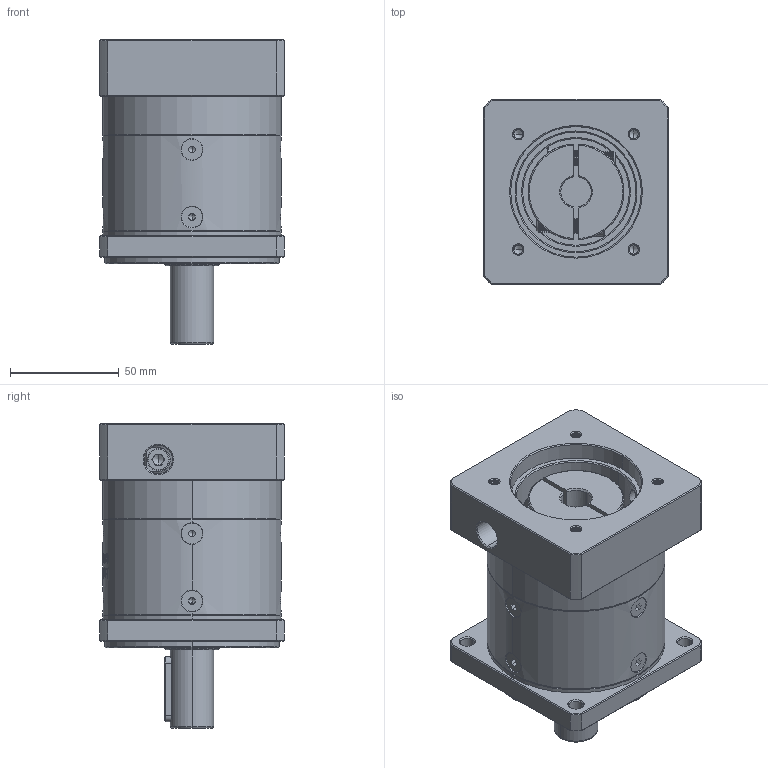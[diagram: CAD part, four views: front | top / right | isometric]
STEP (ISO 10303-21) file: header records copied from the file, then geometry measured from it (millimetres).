
FILE_DESCRIPTION (( 'STEP AP214' ), '1' );
FILE_NAME ('ZF080-D20-L1-P2-14-60-75-M5.step', '2023-08-19T05:27:38', ( '' ), ( '' ), 'SwSTEP 2.0', 'SolidWorks 2016', '' );
FILE_SCHEMA (( 'AUTOMOTIVE_DESIGN' ));
Length unit declared in the file: millimetre
Products named in the file (1): ZF080-D20-L1-P2-14-60-75-M5
Bounding box: 85 x 85 x 140 mm (x, y, z)
Volume: 555999.5 mm3; surface area: 88019.8 mm2
Topology: 13 solids, 13 shells, 2239 faces, 5862 edges, 3722 vertices
Faces by surface type: plane 1071, bspline 394, cylinder 390, cone 347, torus 37
Entity records: 119433 total; most frequent: CARTESIAN_POINT 44756, ORIENTED_EDGE 11664, DIRECTION 8670, EDGE_CURVE 5832, VERTEX_POINT 3722, LINE 3098, VECTOR 3098, AXIS2_PLACEMENT_3D 2786
